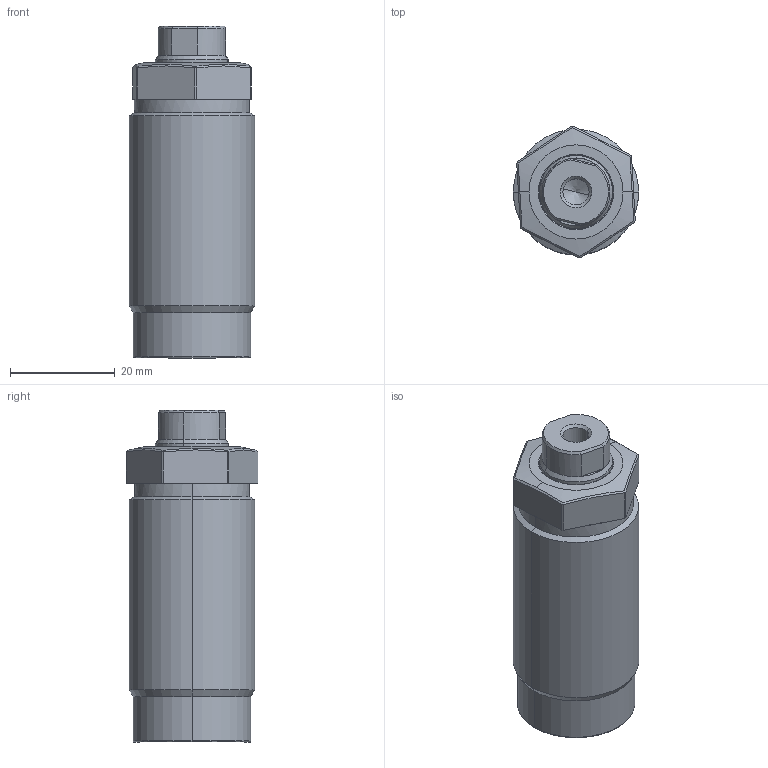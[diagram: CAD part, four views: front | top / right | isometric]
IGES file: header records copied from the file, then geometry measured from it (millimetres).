
Start section: SolidWorks IGES file using analytic representation for surfaces
Global section: file name: F:\THREADED BODY PUSHER-STD\TO3C-M242-L.IGS; native system: SolidWorks 2019; preprocessor: SolidWorks 2019; author: ADMIN; date: 200709.102803; units: millimetre
Bounding box: 24 x 25.18 x 63.5 mm (x, y, z)
Volume: 24535.1 mm3; surface area: 9796.9 mm2
Topology: 2 solids, 2 shells, 81 faces, 184 edges, 110 vertices
Faces by surface type: revolution 43, plane 32, bspline 6
